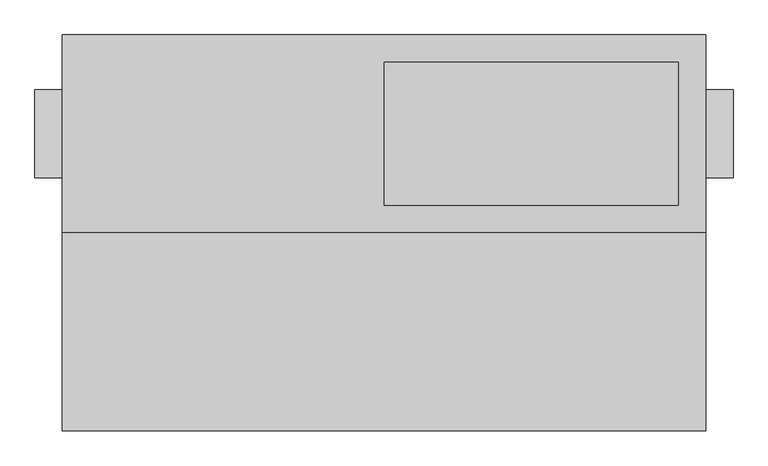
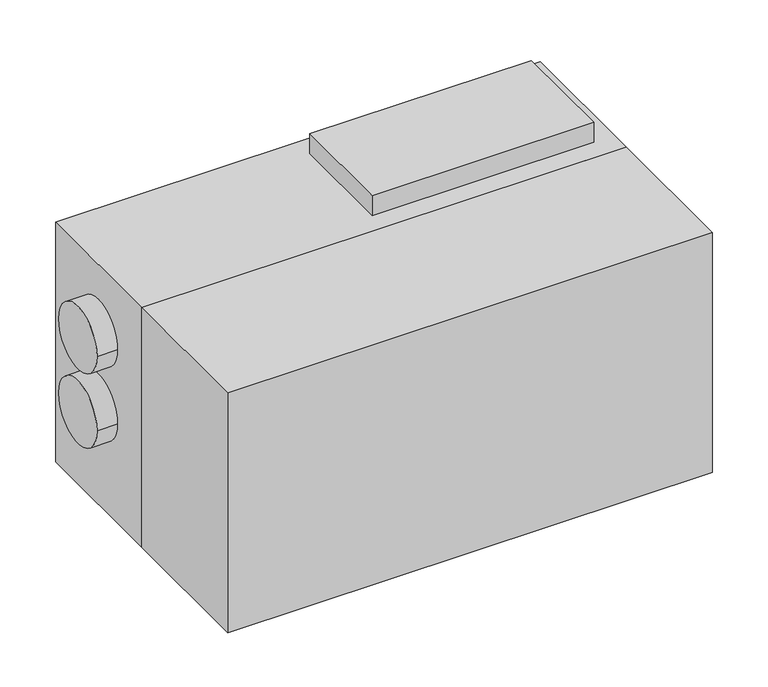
"""IFC4 building model written with IfcOpenShell, lengths in millimetres: proxy geometry, ADSK_КПВУ BRISSAGO HPE_круглая : Brissago HPE 450."""

from ifc_helpers import new_model, si_unit, point, frame, frame_2d, origin, place, context, project, spatial, polyline, circle_curve, trimmed, segment, composite_curve, outline, extrude, faceted_brep, source, transform, mapped, element, save


def mechanical_equipment_004291be(model_context):
    return source(origin(), model_context, "Body", "SolidModel", [
        extrude(outline(polyline([(851.0, -180.0), (851.0, -540.0), (-319.0, -540.0), (-319.0, -180.0), (851.0, -180.0)])), frame((0.0, 0.0, 31.0), z_axis=(0.0, 0.0, 1.0), x_axis=(1.0, 0.0, 0.0)), (0.0, 0.0, 1.0), 613.0),
        faceted_brep([(851.0, -180.0, 644.0), (851.0, -180.0, 31.0), (851.0, 180.0, 31.0), (851.0, 180.0, 644.0), (-319.0, -180.0, 644.0), (-319.0, 180.0, 644.0), (-319.0, 180.0, 31.0), (-319.0, -180.0, 31.0), (266.0, 130.0, 644.0), (801.0, 130.0, 644.0), (801.0, -130.0, 644.0), (266.0, -130.0, 644.0), (801.0, 130.0, 695.0), (266.0, 130.0, 695.0), (266.0, -130.0, 695.0), (801.0, -130.0, 695.0)], [[[0, 1, 2, 3]], [[4, 5, 6, 7]], [[1, 0, 4, 7]], [[2, 1, 7, 6]], [[3, 2, 6, 5]], [[0, 3, 5, 4], [8, 9, 10, 11]], [[12, 13, 14, 15]], [[13, 12, 9, 8]], [[14, 13, 8, 11]], [[15, 14, 11, 10]], [[12, 15, 10, 9]]]),
        extrude(outline(composite_curve([segment(trimmed(circle_curve(frame_2d((0.0, 476.0)), 80.0), [point((-80.0, 476.0))], [point((80.0, 476.0))], False, "CARTESIAN"), True, "CONTINUOUS"), segment(trimmed(circle_curve(frame_2d((0.0, 476.0)), 80.0), [point((80.0, 476.0))], [point((-80.0, 476.0))], False, "CARTESIAN"), True, "CONTINUOUS")], self_intersect=False)), frame((-369.0, 0.0, 0.0), z_axis=(1.0, 0.0, 0.0), x_axis=(0.0, 1.0, 0.0)), (0.0, 0.0, 1.0), 50.0),
        extrude(outline(composite_curve([segment(trimmed(circle_curve(frame_2d((0.0, 286.0)), 80.0), [point((-80.0, 286.0))], [point((80.0, 286.0))], False, "CARTESIAN"), True, "CONTINUOUS"), segment(trimmed(circle_curve(frame_2d((0.0, 286.0)), 80.0), [point((80.0, 286.0))], [point((-80.0, 286.0))], False, "CARTESIAN"), True, "CONTINUOUS")], self_intersect=False)), frame((-369.0, 0.0, 0.0), z_axis=(1.0, 0.0, 0.0), x_axis=(0.0, 1.0, 0.0)), (0.0, 0.0, 1.0), 50.0),
        extrude(outline(composite_curve([segment(trimmed(circle_curve(frame_2d((0.0, 476.0)), 80.0), [point((-80.0, 476.0))], [point((80.0, 476.0))], False, "CARTESIAN"), True, "CONTINUOUS"), segment(trimmed(circle_curve(frame_2d((0.0, 476.0)), 80.0), [point((80.0, 476.0))], [point((-80.0, 476.0))], False, "CARTESIAN"), True, "CONTINUOUS")], self_intersect=False)), frame((851.0, 0.0, 0.0), z_axis=(1.0, 0.0, 0.0), x_axis=(0.0, 1.0, 0.0)), (0.0, 0.0, 1.0), 50.0),
        extrude(outline(composite_curve([segment(trimmed(circle_curve(frame_2d((0.0, 286.0)), 80.0), [point((-80.0, 286.0))], [point((80.0, 286.0))], False, "CARTESIAN"), True, "CONTINUOUS"), segment(trimmed(circle_curve(frame_2d((0.0, 286.0)), 80.0), [point((80.0, 286.0))], [point((-80.0, 286.0))], False, "CARTESIAN"), True, "CONTINUOUS")], self_intersect=False)), frame((851.0, 0.0, 0.0), z_axis=(1.0, 0.0, 0.0), x_axis=(0.0, 1.0, 0.0)), (0.0, 0.0, 1.0), 50.0),
        extrude(outline(polyline([(0.0, -139.0), (31.0, -139.0), (31.0, -149.0), (10.0, -149.0), (10.0, -189.0), (31.0, -189.0), (31.0, -199.0), (0.0, -199.0), (0.0, -139.0)])), frame((0.0, -180.0, 0.0), z_axis=(0.0, 1.0, 0.0), x_axis=(0.0, 0.0, 1.0)), (0.0, 0.0, 1.0), 360.0),
        extrude(outline(polyline([(0.0, 731.0), (31.0, 731.0), (31.0, 721.0), (10.0, 721.0), (10.0, 681.0), (31.0, 681.0), (31.0, 671.0), (0.0, 671.0), (0.0, 731.0)])), frame((0.0, -180.0, 0.0), z_axis=(0.0, 1.0, 0.0), x_axis=(0.0, 0.0, 1.0)), (0.0, 0.0, 1.0), 360.0),
    ])


if __name__ == "__main__":
    model = new_model("IFC4")
    model_context = context("Model", 3, world=origin())
    ifc_project = project(units=[si_unit("LENGTHUNIT", "METRE", prefix="MILLI")], contexts=[model_context])
    site = spatial("IfcSite", under=ifc_project)
    building = spatial("IfcBuilding", under=site)
    placement = place(None, origin())
    mechanical_equipment_shape = mechanical_equipment_004291be(model_context)
    element("IfcBuildingElementProxy", 1, Name="ADSK_КПВУ BRISSAGO HPE_круглая : Brissago HPE 450", ObjectType="ADSK_КПВУ BRISSAGO HPE_круглая : Brissago HPE 450", at=placement, inside=building, context=model_context, shape_type="MappedRepresentation", body=[
        mapped(mechanical_equipment_shape, transform((0.0, 0.0, 0.0), x_axis=(1.0, 0.0, 0.0), y_axis=(0.0, 1.0, 0.0), z_axis=(0.0, 0.0, 1.0))),
    ])
    save(model, "model.ifc")
